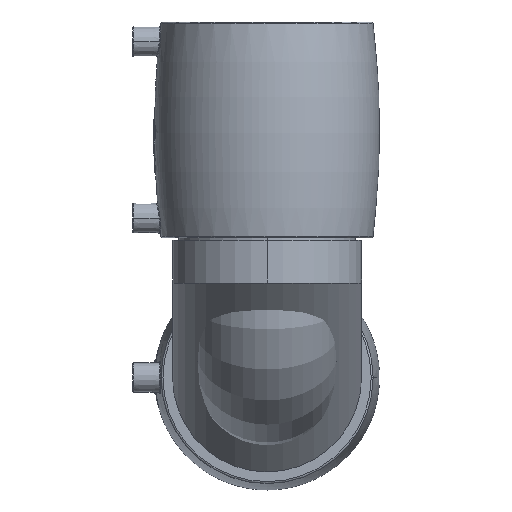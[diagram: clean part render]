
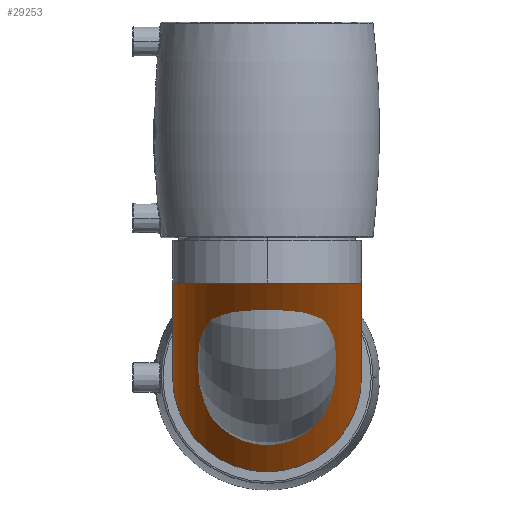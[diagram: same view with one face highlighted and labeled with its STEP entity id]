
A CAD part, left-side view. The second image highlights one B-rep face of the part: STEP entity #29253.
In plain terms, the highlighted toroidal (fillet/blend) face has major radius 48.15 mm and minor radius 48.15 mm.
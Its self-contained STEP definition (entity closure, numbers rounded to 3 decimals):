
#7802 = ORIENTED_EDGE ( 'NONE', *, *, #38759, .F. ) ;
#7803 = ORIENTED_EDGE ( 'NONE', *, *, #38776, .T. ) ;
#7805 = ORIENTED_EDGE ( 'NONE', *, *, #11245, .T. ) ;
#7807 = ORIENTED_EDGE ( 'NONE', *, *, #38498, .F. ) ;
#9996 = DIRECTION ( 'NONE',  ( 0., -1., 0. ) ) ;
#9998 = CARTESIAN_POINT ( 'NONE',  ( -259.959, -206.907, 41.134 ) ) ;
#10000 = DIRECTION ( 'NONE',  ( 0., 0., -1. ) ) ;
#11051 = VERTEX_POINT ( 'NONE', #19733 ) ;
#11245 = EDGE_CURVE ( 'NONE', #11051, #45300, #34756, .T. ) ;
#11618 = TOROIDAL_SURFACE ( 'NONE', #33005, 48.15, 48.15 ) ;
#11623 = FACE_OUTER_BOUND ( 'NONE', #34481, .T. ) ;
#11958 = DIRECTION ( 'NONE',  ( 0., 0., 1. ) ) ;
#11998 = CARTESIAN_POINT ( 'NONE',  ( -259.959, -206.907, -7.016 ) ) ;
#12090 = DIRECTION ( 'NONE',  ( -1., 0., 0. ) ) ;
#13385 = AXIS2_PLACEMENT_3D ( 'NONE', #11998, #12090, #11958 ) ;
#18205 = CIRCLE ( 'NONE', #47395, 48.15 ) ;
#19733 = CARTESIAN_POINT ( 'NONE',  ( -259.959, -206.907, -55.166 ) ) ;
#22467 = CARTESIAN_POINT ( 'NONE',  ( -308.109, -206.907, 41.134 ) ) ;
#22469 = DIRECTION ( 'NONE',  ( 0., 0., 1. ) ) ;
#22470 = DIRECTION ( 'NONE',  ( 1., 0., 0. ) ) ;
#22587 = CARTESIAN_POINT ( 'NONE',  ( -259.959, -206.907, -7.016 ) ) ;
#22589 = DIRECTION ( 'NONE',  ( -1., 0., 0. ) ) ;
#22591 = DIRECTION ( 'NONE',  ( 0., 0., 1. ) ) ;
#29253 = ADVANCED_FACE ( 'NONE', ( #11623 ), #11618, .T. ) ;
#33005 = AXIS2_PLACEMENT_3D ( 'NONE', #9998, #9996, #10000 ) ;
#34481 = EDGE_LOOP ( 'NONE', ( #7802, #7803, #7805, #7807 ) ) ;
#34756 = CIRCLE ( 'NONE', #13385, 48.15 ) ;
#35006 = CARTESIAN_POINT ( 'NONE',  ( -308.109, -206.907, 41.134 ) ) ;
#35007 = DIRECTION ( 'NONE',  ( 0., 0., 1. ) ) ;
#35008 = DIRECTION ( 'NONE',  ( 1., 0., 0. ) ) ;
#36130 = CIRCLE ( 'NONE', #47607, 48.15 ) ;
#36148 = CIRCLE ( 'NONE', #47628, 48.15 ) ;
#38498 = EDGE_CURVE ( 'NONE', #45200, #45300, #18205, .T. ) ;
#38759 = EDGE_CURVE ( 'NONE', #45300, #45200, #36130, .T. ) ;
#38776 = EDGE_CURVE ( 'NONE', #45300, #11051, #36148, .T. ) ;
#45200 = VERTEX_POINT ( 'NONE', #48203 ) ;
#45300 = VERTEX_POINT ( 'NONE', #48304 ) ;
#47395 = AXIS2_PLACEMENT_3D ( 'NONE', #35006, #35007, #35008 ) ;
#47607 = AXIS2_PLACEMENT_3D ( 'NONE', #22467, #22469, #22470 ) ;
#47628 = AXIS2_PLACEMENT_3D ( 'NONE', #22587, #22589, #22591 ) ;
#48203 = CARTESIAN_POINT ( 'NONE',  ( -356.259, -206.907, 41.134 ) ) ;
#48304 = CARTESIAN_POINT ( 'NONE',  ( -259.959, -206.907, 41.134 ) ) ;
